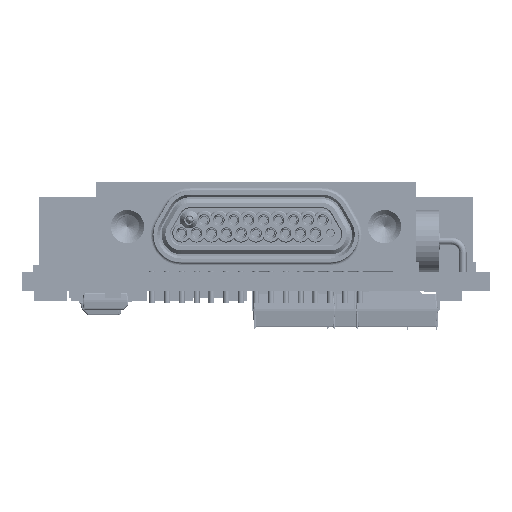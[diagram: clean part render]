
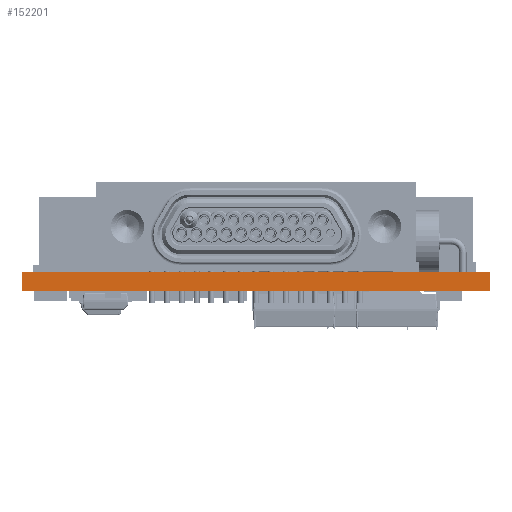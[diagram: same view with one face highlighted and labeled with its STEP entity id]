
A CAD part, left-side view. The second image highlights one B-rep face of the part: STEP entity #152201.
In plain terms, the highlighted planar face has unit normal (-1, 0, 0).
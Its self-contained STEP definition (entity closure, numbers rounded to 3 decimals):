
#152201 = ADVANCED_FACE('',(#152202),#152236,.T.);
#152202 = FACE_BOUND('',#152203,.T.);
#152203 = EDGE_LOOP('',(#152204,#152214,#152222,#152230));
#152204 = ORIENTED_EDGE('',*,*,#152205,.T.);
#152205 = EDGE_CURVE('',#152206,#152208,#152210,.T.);
#152206 = VERTEX_POINT('',#152207);
#152207 = CARTESIAN_POINT('',(0.,0.,-1.601));
#152208 = VERTEX_POINT('',#152209);
#152209 = CARTESIAN_POINT('',(0.,0.,0.));
#152210 = LINE('',#152211,#152212);
#152211 = CARTESIAN_POINT('',(0.,0.,-1.601));
#152212 = VECTOR('',#152213,1.);
#152213 = DIRECTION('',(0.,0.,1.));
#152214 = ORIENTED_EDGE('',*,*,#152215,.T.);
#152215 = EDGE_CURVE('',#152208,#152216,#152218,.T.);
#152216 = VERTEX_POINT('',#152217);
#152217 = CARTESIAN_POINT('',(0.,40.,0.));
#152218 = LINE('',#152219,#152220);
#152219 = CARTESIAN_POINT('',(0.,0.,0.));
#152220 = VECTOR('',#152221,1.);
#152221 = DIRECTION('',(0.,1.,0.));
#152222 = ORIENTED_EDGE('',*,*,#152223,.F.);
#152223 = EDGE_CURVE('',#152224,#152216,#152226,.T.);
#152224 = VERTEX_POINT('',#152225);
#152225 = CARTESIAN_POINT('',(0.,40.,-1.601));
#152226 = LINE('',#152227,#152228);
#152227 = CARTESIAN_POINT('',(0.,40.,-1.601));
#152228 = VECTOR('',#152229,1.);
#152229 = DIRECTION('',(0.,0.,1.));
#152230 = ORIENTED_EDGE('',*,*,#152231,.F.);
#152231 = EDGE_CURVE('',#152206,#152224,#152232,.T.);
#152232 = LINE('',#152233,#152234);
#152233 = CARTESIAN_POINT('',(0.,0.,-1.601));
#152234 = VECTOR('',#152235,1.);
#152235 = DIRECTION('',(0.,1.,0.));
#152236 = PLANE('',#152237);
#152237 = AXIS2_PLACEMENT_3D('',#152238,#152239,#152240);
#152238 = CARTESIAN_POINT('',(0.,0.,-1.601));
#152239 = DIRECTION('',(-1.,0.,0.));
#152240 = DIRECTION('',(0.,1.,0.));
